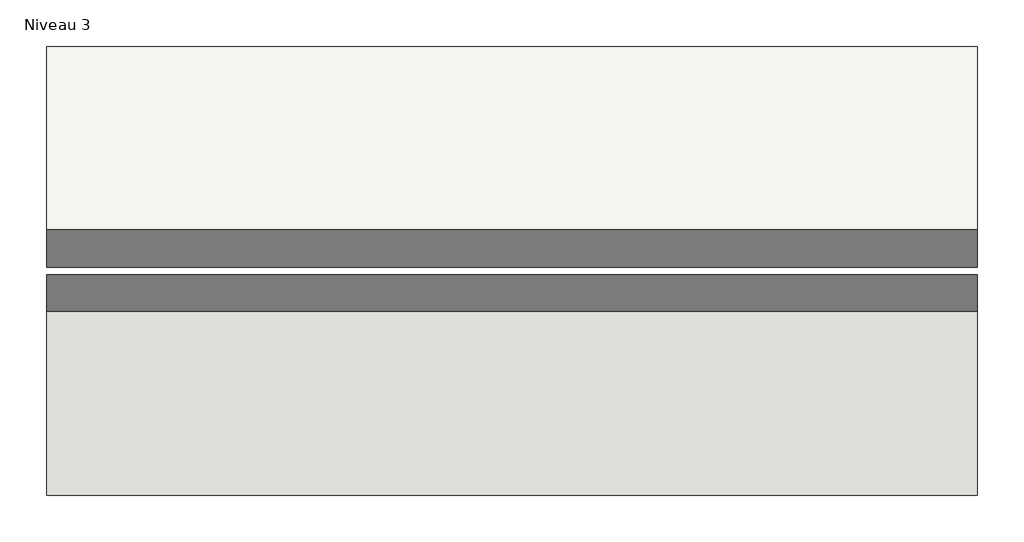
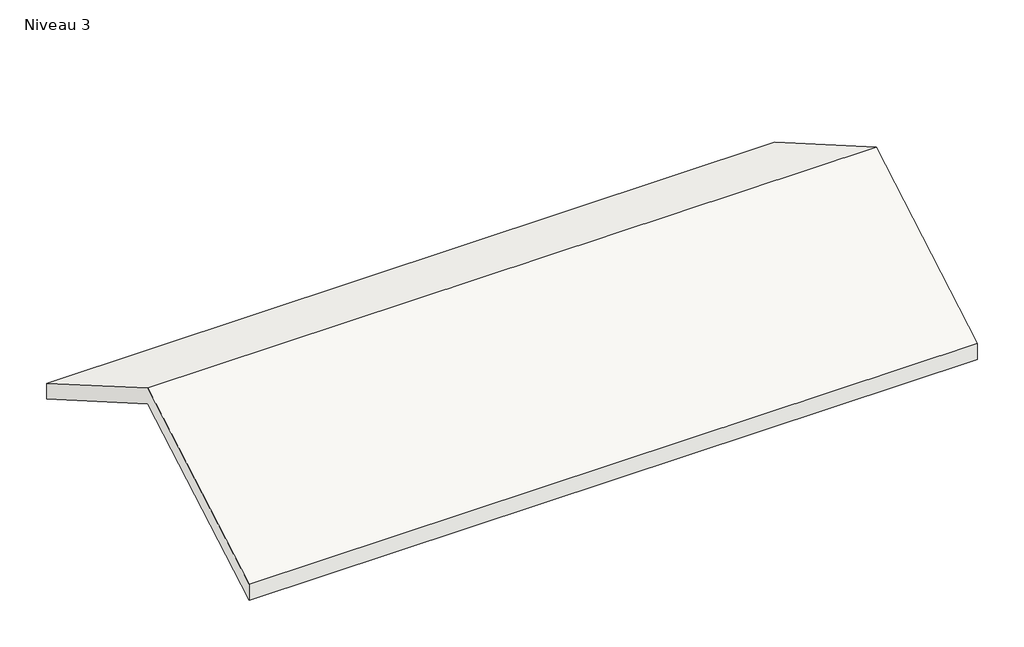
# One storey: 1 roof.
"""IFC4 building model written with IfcOpenShell, lengths in millimetres."""

from ifc_helpers import new_model, si_unit, frame, origin, place, context, project, spatial, polyline, outline, extrude, element, save

model = new_model("IFC4")

# Units and contexts
model_context = context("Model", 3, world=origin())
ifc_project = project(units=[si_unit("LENGTHUNIT", "METRE", prefix="MILLI")], contexts=[model_context])

# Site, building, storey
site = spatial("IfcSite", under=ifc_project)
building = spatial("IfcBuilding", under=site)
storey = spatial("IfcBuildingStorey", under=building, Name="Niveau 3", Elevation=3800.0)

# Roof
placement = place(None, origin())
element("IfcRoof", 1, ObjectType="Toit - 200 mm", at=placement, inside=storey, context=model_context, shape_type="SweptSolid", body=[
    extrude(outline(polyline([(-2573.9493613, 3857.7350269), (-153.9493613, 5254.9226784), (2266.0506387, 3857.7350269), (2266.0506387, 3626.7949192), (-153.9493613, 5023.9825707), (-2573.9493613, 3626.7949192), (-2573.9493613, 3857.7350269)])), frame((2548.5031637, 0.0, 0.0), z_axis=(1.0, 0.0, 0.0), x_axis=(0.0, 1.0, 0.0)), (0.0, 0.0, 1.0), 10040.0),
])

save(model, "model.ifc")
